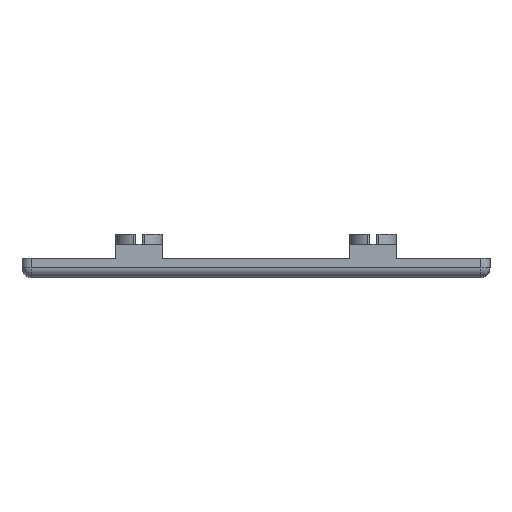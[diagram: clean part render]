
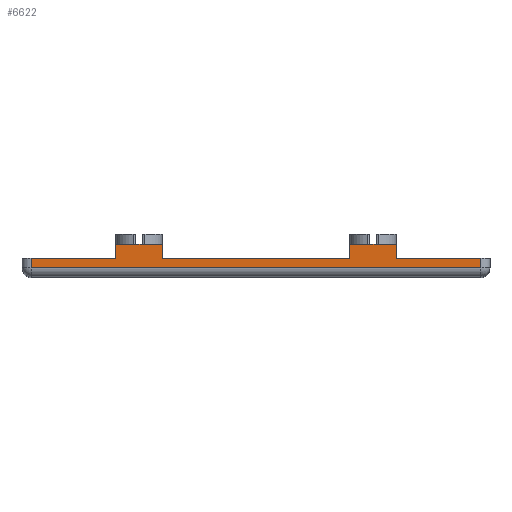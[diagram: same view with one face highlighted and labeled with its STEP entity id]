
A CAD part, top view. The second image highlights one B-rep face of the part: STEP entity #6622.
In plain terms, the highlighted planar face has unit normal (0, 0, 1).
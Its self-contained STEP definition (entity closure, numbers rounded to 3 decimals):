
#26 = CARTESIAN_POINT ( 'NONE',  ( 30., 7., 50. ) ) ;
#44 = VERTEX_POINT ( 'NONE', #26 ) ;
#105 = ORIENTED_EDGE ( 'NONE', *, *, #7546, .F. ) ;
#316 = CARTESIAN_POINT ( 'NONE',  ( -48., 2., 50. ) ) ;
#361 = VERTEX_POINT ( 'NONE', #3883 ) ;
#402 = ORIENTED_EDGE ( 'NONE', *, *, #1730, .T. ) ;
#763 = EDGE_CURVE ( 'NONE', #44, #6403, #4258, .T. ) ;
#841 = ORIENTED_EDGE ( 'NONE', *, *, #6933, .F. ) ;
#842 = EDGE_LOOP ( 'NONE', ( #9387, #402, #105, #4707, #5888, #841, #2451, #2689, #6592, #9520, #8846, #4661 ) ) ;
#883 = EDGE_CURVE ( 'NONE', #9652, #7414, #1785, .T. ) ;
#956 = CARTESIAN_POINT ( 'NONE',  ( 30., 4., 50. ) ) ;
#1155 = CARTESIAN_POINT ( 'NONE',  ( -30., 7., 50. ) ) ;
#1158 = DIRECTION ( 'NONE',  ( 0., -1., 0. ) ) ;
#1271 = CARTESIAN_POINT ( 'NONE',  ( 30., 7., 50. ) ) ;
#1299 = LINE ( 'NONE', #4165, #5096 ) ;
#1356 = LINE ( 'NONE', #5320, #3343 ) ;
#1384 = CARTESIAN_POINT ( 'NONE',  ( 30., 7., 50. ) ) ;
#1385 = VERTEX_POINT ( 'NONE', #4416 ) ;
#1439 = DIRECTION ( 'NONE',  ( 0., -1., 0. ) ) ;
#1631 = DIRECTION ( 'NONE',  ( 1., 0., 0. ) ) ;
#1730 = EDGE_CURVE ( 'NONE', #1385, #9818, #9340, .T. ) ;
#1777 = EDGE_CURVE ( 'NONE', #5807, #2786, #1299, .T. ) ;
#1785 = LINE ( 'NONE', #7020, #9616 ) ;
#1934 = CARTESIAN_POINT ( 'NONE',  ( -20., 7., 50. ) ) ;
#2074 = CARTESIAN_POINT ( 'NONE',  ( -48., 4., 50. ) ) ;
#2152 = VERTEX_POINT ( 'NONE', #7973 ) ;
#2295 = VECTOR ( 'NONE', #4387, 1000. ) ;
#2451 = ORIENTED_EDGE ( 'NONE', *, *, #3412, .T. ) ;
#2662 = DIRECTION ( 'NONE',  ( 1., 0., 0. ) ) ;
#2689 = ORIENTED_EDGE ( 'NONE', *, *, #883, .F. ) ;
#2717 = VECTOR ( 'NONE', #3420, 1000. ) ;
#2728 = DIRECTION ( 'NONE',  ( 0., -1., 0. ) ) ;
#2786 = VERTEX_POINT ( 'NONE', #3192 ) ;
#2900 = VECTOR ( 'NONE', #2728, 1000. ) ;
#2961 = EDGE_CURVE ( 'NONE', #2152, #1385, #1356, .T. ) ;
#2977 = LINE ( 'NONE', #1271, #2717 ) ;
#3122 = VECTOR ( 'NONE', #5705, 1000. ) ;
#3142 = EDGE_CURVE ( 'NONE', #6403, #361, #4291, .T. ) ;
#3192 = CARTESIAN_POINT ( 'NONE',  ( -30., 4., 50. ) ) ;
#3321 = EDGE_CURVE ( 'NONE', #6016, #9652, #3332, .T. ) ;
#3332 = LINE ( 'NONE', #8298, #3122 ) ;
#3343 = VECTOR ( 'NONE', #1439, 1000. ) ;
#3412 = EDGE_CURVE ( 'NONE', #5144, #7414, #5138, .T. ) ;
#3420 = DIRECTION ( 'NONE',  ( 1., 0., 0. ) ) ;
#3588 = VECTOR ( 'NONE', #1631, 1000. ) ;
#3614 = DIRECTION ( 'NONE',  ( -1., 0., 0. ) ) ;
#3628 = EDGE_CURVE ( 'NONE', #2152, #2786, #5588, .T. ) ;
#3774 = DIRECTION ( 'NONE',  ( 0., -1., 0. ) ) ;
#3883 = CARTESIAN_POINT ( 'NONE',  ( 48., 4., 50. ) ) ;
#4099 = CARTESIAN_POINT ( 'NONE',  ( 48., 4., 50. ) ) ;
#4134 = DIRECTION ( 'NONE',  ( 1., 0., 0. ) ) ;
#4165 = CARTESIAN_POINT ( 'NONE',  ( -30., 7., 50. ) ) ;
#4190 = CARTESIAN_POINT ( 'NONE',  ( 20., 7., 50. ) ) ;
#4258 = LINE ( 'NONE', #1384, #9262 ) ;
#4291 = LINE ( 'NONE', #8940, #2295 ) ;
#4387 = DIRECTION ( 'NONE',  ( 1., 0., 0. ) ) ;
#4416 = CARTESIAN_POINT ( 'NONE',  ( -48., 2., 50. ) ) ;
#4661 = ORIENTED_EDGE ( 'NONE', *, *, #3628, .F. ) ;
#4707 = ORIENTED_EDGE ( 'NONE', *, *, #3142, .F. ) ;
#4905 = CARTESIAN_POINT ( 'NONE',  ( -30., 7., 50. ) ) ;
#5096 = VECTOR ( 'NONE', #1158, 1000. ) ;
#5138 = LINE ( 'NONE', #4190, #2900 ) ;
#5144 = VERTEX_POINT ( 'NONE', #9856 ) ;
#5210 = VECTOR ( 'NONE', #4134, 1000. ) ;
#5320 = CARTESIAN_POINT ( 'NONE',  ( -48., 4., 50. ) ) ;
#5365 = AXIS2_PLACEMENT_3D ( 'NONE', #2074, #8142, #3614 ) ;
#5428 = LINE ( 'NONE', #4905, #5210 ) ;
#5588 = LINE ( 'NONE', #6943, #3588 ) ;
#5657 = LINE ( 'NONE', #4099, #7694 ) ;
#5705 = DIRECTION ( 'NONE',  ( 0., -1., 0. ) ) ;
#5807 = VERTEX_POINT ( 'NONE', #1155 ) ;
#5812 = VECTOR ( 'NONE', #2662, 1000. ) ;
#5821 = CARTESIAN_POINT ( 'NONE',  ( -20., 4., 50. ) ) ;
#5888 = ORIENTED_EDGE ( 'NONE', *, *, #763, .F. ) ;
#6016 = VERTEX_POINT ( 'NONE', #1934 ) ;
#6366 = DIRECTION ( 'NONE',  ( 1., 0., 0. ) ) ;
#6403 = VERTEX_POINT ( 'NONE', #956 ) ;
#6592 = ORIENTED_EDGE ( 'NONE', *, *, #3321, .F. ) ;
#6622 = ADVANCED_FACE ( 'NONE', ( #6658 ), #7401, .F. ) ;
#6658 = FACE_OUTER_BOUND ( 'NONE', #842, .T. ) ;
#6933 = EDGE_CURVE ( 'NONE', #5144, #44, #2977, .T. ) ;
#6943 = CARTESIAN_POINT ( 'NONE',  ( -48., 4., 50. ) ) ;
#7020 = CARTESIAN_POINT ( 'NONE',  ( -48., 4., 50. ) ) ;
#7401 = PLANE ( 'NONE',  #5365 ) ;
#7414 = VERTEX_POINT ( 'NONE', #9268 ) ;
#7546 = EDGE_CURVE ( 'NONE', #361, #9818, #5657, .T. ) ;
#7587 = EDGE_CURVE ( 'NONE', #5807, #6016, #5428, .T. ) ;
#7694 = VECTOR ( 'NONE', #8654, 1000. ) ;
#7973 = CARTESIAN_POINT ( 'NONE',  ( -48., 4., 50. ) ) ;
#8142 = DIRECTION ( 'NONE',  ( 0., 0., -1. ) ) ;
#8298 = CARTESIAN_POINT ( 'NONE',  ( -20., 7., 50. ) ) ;
#8654 = DIRECTION ( 'NONE',  ( 0., -1., 0. ) ) ;
#8846 = ORIENTED_EDGE ( 'NONE', *, *, #1777, .T. ) ;
#8940 = CARTESIAN_POINT ( 'NONE',  ( -48., 4., 50. ) ) ;
#9221 = CARTESIAN_POINT ( 'NONE',  ( 48., 2., 50. ) ) ;
#9262 = VECTOR ( 'NONE', #3774, 1000. ) ;
#9268 = CARTESIAN_POINT ( 'NONE',  ( 20., 4., 50. ) ) ;
#9340 = LINE ( 'NONE', #316, #5812 ) ;
#9387 = ORIENTED_EDGE ( 'NONE', *, *, #2961, .T. ) ;
#9520 = ORIENTED_EDGE ( 'NONE', *, *, #7587, .F. ) ;
#9616 = VECTOR ( 'NONE', #6366, 1000. ) ;
#9652 = VERTEX_POINT ( 'NONE', #5821 ) ;
#9818 = VERTEX_POINT ( 'NONE', #9221 ) ;
#9856 = CARTESIAN_POINT ( 'NONE',  ( 20., 7., 50. ) ) ;
